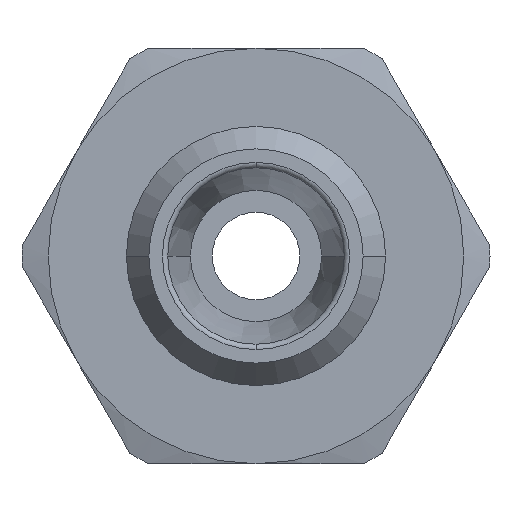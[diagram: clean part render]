
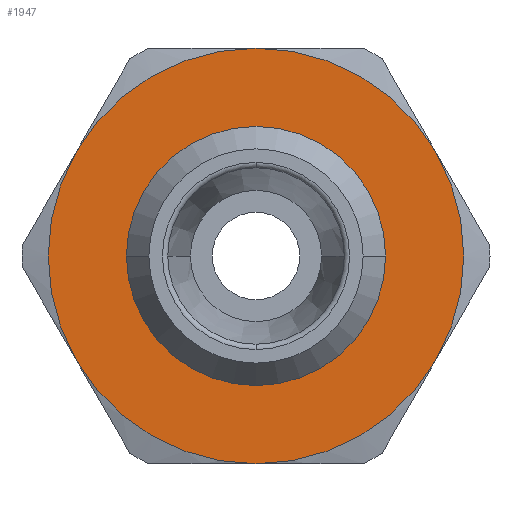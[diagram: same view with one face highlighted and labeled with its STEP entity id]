
A CAD part, left-side view. The second image highlights one B-rep face of the part: STEP entity #1947.
In plain terms, the highlighted planar face has unit normal (-1, 0, 0) as drawn and (0, 0, 1) by its records, which use the part's own axes.
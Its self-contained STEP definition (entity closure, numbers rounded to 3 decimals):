
#857=CARTESIAN_POINT('',(-5.8,0.,2.5));
#858=VERTEX_POINT('',#857);
#884=CARTESIAN_POINT('',(5.8,0.,2.5));
#885=VERTEX_POINT('',#884);
#893=CARTESIAN_POINT('',(0.,0.,2.5));
#894=DIRECTION('',(0.0,0.0,1.0));
#895=DIRECTION('',(-1.0,0.0,0.0));
#896=AXIS2_PLACEMENT_3D('',#893,#894,#895);
#897=CIRCLE('',#896,5.8);
#898=EDGE_CURVE('',#885,#858,#897,.T.);
#1827=CARTESIAN_POINT('',(0.,-5.8,2.5));
#1828=VERTEX_POINT('',#1827);
#1829=CARTESIAN_POINT('',(0.,0.,2.5));
#1830=DIRECTION('',(0.0,0.0,1.0));
#1831=DIRECTION('',(-1.0,0.0,0.0));
#1832=AXIS2_PLACEMENT_3D('',#1829,#1830,#1831);
#1833=CIRCLE('',#1832,5.8);
#1834=EDGE_CURVE('',#858,#1828,#1833,.T.);
#1836=CARTESIAN_POINT('',(0.,0.,2.5));
#1837=DIRECTION('',(0.0,0.0,1.0));
#1838=DIRECTION('',(-1.0,0.0,0.0));
#1839=AXIS2_PLACEMENT_3D('',#1836,#1837,#1838);
#1840=CIRCLE('',#1839,5.8);
#1841=EDGE_CURVE('',#1828,#885,#1840,.T.);
#1881=CARTESIAN_POINT('',(0.,0.,2.5));
#1882=DIRECTION('',(0.0,0.0,1.0));
#1883=DIRECTION('',(1.0,0.0,0.0));
#1884=AXIS2_PLACEMENT_3D('',#1881,#1882,#1883);
#1885=PLANE('',#1884);
#1886=CARTESIAN_POINT('',(4.75,-8.227,2.5));
#1887=VERTEX_POINT('',#1886);
#1888=CARTESIAN_POINT('',(9.5,0.0,2.5));
#1889=VERTEX_POINT('',#1888);
#1890=CARTESIAN_POINT('',(0.,0.0,2.5));
#1891=DIRECTION('',(0.0,0.0,1.0));
#1892=DIRECTION('',(1.0,0.0,0.0));
#1893=AXIS2_PLACEMENT_3D('',#1890,#1891,#1892);
#1894=CIRCLE('',#1893,9.5);
#1895=EDGE_CURVE('',#1887,#1889,#1894,.T.);
#1896=ORIENTED_EDGE('',*,*,#1895,.T.);
#1897=CARTESIAN_POINT('',(4.75,8.227,2.5));
#1898=VERTEX_POINT('',#1897);
#1899=CARTESIAN_POINT('',(0.,0.0,2.5));
#1900=DIRECTION('',(0.0,0.0,1.0));
#1901=DIRECTION('',(1.0,0.0,0.0));
#1902=AXIS2_PLACEMENT_3D('',#1899,#1900,#1901);
#1903=CIRCLE('',#1902,9.5);
#1904=EDGE_CURVE('',#1889,#1898,#1903,.T.);
#1905=ORIENTED_EDGE('',*,*,#1904,.T.);
#1906=CARTESIAN_POINT('',(-4.75,8.227,2.5));
#1907=VERTEX_POINT('',#1906);
#1908=CARTESIAN_POINT('',(0.,0.0,2.5));
#1909=DIRECTION('',(0.0,0.0,1.0));
#1910=DIRECTION('',(1.0,0.0,0.0));
#1911=AXIS2_PLACEMENT_3D('',#1908,#1909,#1910);
#1912=CIRCLE('',#1911,9.5);
#1913=EDGE_CURVE('',#1898,#1907,#1912,.T.);
#1914=ORIENTED_EDGE('',*,*,#1913,.T.);
#1915=CARTESIAN_POINT('',(-9.5,0.,2.5));
#1916=VERTEX_POINT('',#1915);
#1917=CARTESIAN_POINT('',(0.,0.0,2.5));
#1918=DIRECTION('',(0.0,0.0,1.0));
#1919=DIRECTION('',(1.0,0.0,0.0));
#1920=AXIS2_PLACEMENT_3D('',#1917,#1918,#1919);
#1921=CIRCLE('',#1920,9.5);
#1922=EDGE_CURVE('',#1907,#1916,#1921,.T.);
#1923=ORIENTED_EDGE('',*,*,#1922,.T.);
#1924=CARTESIAN_POINT('',(-4.75,-8.227,2.5));
#1925=VERTEX_POINT('',#1924);
#1926=CARTESIAN_POINT('',(0.,0.0,2.5));
#1927=DIRECTION('',(0.0,0.0,1.0));
#1928=DIRECTION('',(1.0,0.0,0.0));
#1929=AXIS2_PLACEMENT_3D('',#1926,#1927,#1928);
#1930=CIRCLE('',#1929,9.5);
#1931=EDGE_CURVE('',#1916,#1925,#1930,.T.);
#1932=ORIENTED_EDGE('',*,*,#1931,.T.);
#1933=CARTESIAN_POINT('',(0.,0.0,2.5));
#1934=DIRECTION('',(0.0,0.0,1.0));
#1935=DIRECTION('',(1.0,0.0,0.0));
#1936=AXIS2_PLACEMENT_3D('',#1933,#1934,#1935);
#1937=CIRCLE('',#1936,9.5);
#1938=EDGE_CURVE('',#1925,#1887,#1937,.T.);
#1939=ORIENTED_EDGE('',*,*,#1938,.T.);
#1940=EDGE_LOOP('',(#1896,#1905,#1914,#1923,#1932,#1939));
#1941=FACE_OUTER_BOUND('',#1940,.T.);
#1942=ORIENTED_EDGE('',*,*,#1841,.F.);
#1943=ORIENTED_EDGE('',*,*,#1834,.F.);
#1944=ORIENTED_EDGE('',*,*,#898,.F.);
#1945=EDGE_LOOP('',(#1942,#1943,#1944));
#1946=FACE_BOUND('',#1945,.T.);
#1947=ADVANCED_FACE('',(#1941,#1946),#1885,.T.);
